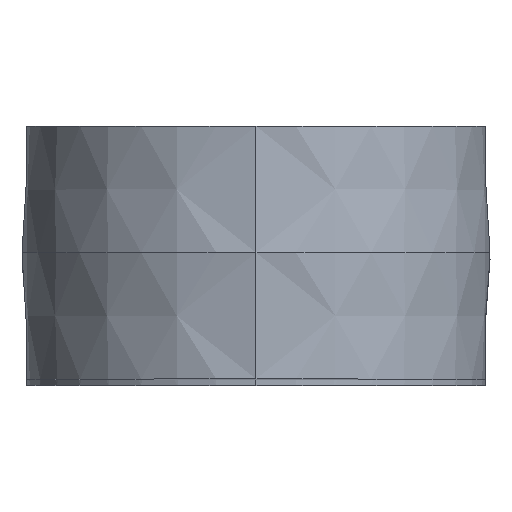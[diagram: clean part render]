
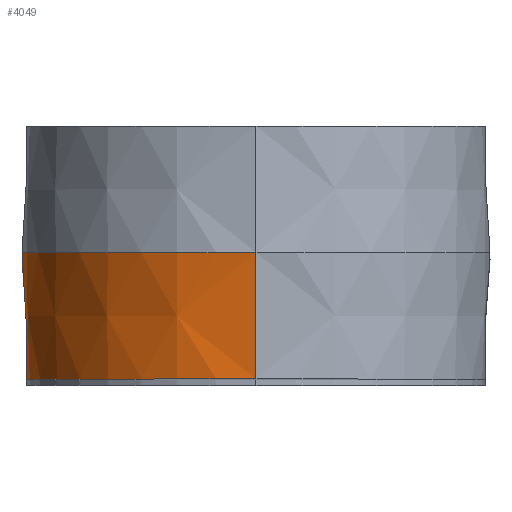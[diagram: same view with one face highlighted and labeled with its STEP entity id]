
A CAD part, top view. The second image highlights one B-rep face of the part: STEP entity #4049.
In plain terms, the highlighted conical face has half-angle 2 degrees and reference radius 100 mm.
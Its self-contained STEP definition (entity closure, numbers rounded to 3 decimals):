
#1867=AXIS2_PLACEMENT_3D('Circle Axis2P3D',#1865,#1866,$) ;
#2379=AXIS2_PLACEMENT_3D('Circle Axis2P3D',#2377,#2378,$) ;
#4015=AXIS2_PLACEMENT_3D('Cone Axis2P3D',#4012,#4013,#4014) ;
#4038=AXIS2_PLACEMENT_3D('Circle Axis2P3D',#4036,#4037,$) ;
#1836=CARTESIAN_POINT('Vertex',(-534.442,235.349,2883.82)) ;
#1862=CARTESIAN_POINT('Vertex',(-436.613,235.349,2798.779)) ;
#1865=CARTESIAN_POINT('Axis2P3D Location',(-436.613,235.349,2897.569)) ;
#2331=CARTESIAN_POINT('Vertex',(-436.613,270.,2997.569)) ;
#2374=CARTESIAN_POINT('Vertex',(-535.64,270.,2883.651)) ;
#2377=CARTESIAN_POINT('Axis2P3D Location',(-436.613,270.,2897.569)) ;
#4012=CARTESIAN_POINT('Axis2P3D Location',(-436.613,270.,2897.569)) ;
#4017=CARTESIAN_POINT('Line Origine',(-436.613,227.5,2996.084)) ;
#4021=CARTESIAN_POINT('Vertex',(-436.613,216.,2995.683)) ;
#4024=CARTESIAN_POINT('Line Origine',(-534.17,227.5,2883.858)) ;
#4029=CARTESIAN_POINT('Line Origine',(-436.613,227.5,2799.053)) ;
#4033=CARTESIAN_POINT('Vertex',(-436.613,216.,2799.454)) ;
#4036=CARTESIAN_POINT('Axis2P3D Location',(-436.613,216.,2897.569)) ;
#1866=DIRECTION('Axis2P3D Direction',(0.,-1.,0.)) ;
#2378=DIRECTION('Axis2P3D Direction',(0.,-1.,0.)) ;
#4013=DIRECTION('Axis2P3D Direction',(0.,1.,0.)) ;
#4014=DIRECTION('Axis2P3D XDirection',(-0.99,0.,-0.139)) ;
#4018=DIRECTION('Vector Direction',(0.,0.999,0.035)) ;
#4025=DIRECTION('Vector Direction',(-0.035,0.999,-0.005)) ;
#4030=DIRECTION('Vector Direction',(0.,0.999,-0.035)) ;
#4037=DIRECTION('Axis2P3D Direction',(0.,-1.,0.)) ;
#4019=VECTOR('Line Direction',#4018,1.) ;
#4026=VECTOR('Line Direction',#4025,1.) ;
#4031=VECTOR('Line Direction',#4030,1.) ;
#4042=ORIENTED_EDGE('',*,*,#4023,.F.) ;
#4043=ORIENTED_EDGE('',*,*,#2381,.F.) ;
#4044=ORIENTED_EDGE('',*,*,#4028,.T.) ;
#4045=ORIENTED_EDGE('',*,*,#1869,.T.) ;
#4046=ORIENTED_EDGE('',*,*,#4035,.T.) ;
#4047=ORIENTED_EDGE('',*,*,#4040,.T.) ;
#4049=ADVANCED_FACE('A2-006.1\\\X2\FF8AFF9FFF70FF82\X0\ \X2\FF8EFF9EFF83FF9EFF68FF70\X0\',(#4048),#4016,.T.) ;
#1868=CIRCLE('generated circle',#1867,98.79) ;
#2380=CIRCLE('generated circle',#2379,100.) ;
#4039=CIRCLE('generated circle',#4038,98.114) ;
#4016=CONICAL_SURFACE('Cone',#4015,100.,0.035) ;
#1869=EDGE_CURVE('',#1837,#1863,#1868,.T.) ;
#2381=EDGE_CURVE('',#2375,#2332,#2380,.F.) ;
#4023=EDGE_CURVE('',#2332,#4022,#4020,.F.) ;
#4028=EDGE_CURVE('',#2375,#1837,#4027,.F.) ;
#4035=EDGE_CURVE('',#1863,#4034,#4032,.F.) ;
#4040=EDGE_CURVE('',#4034,#4022,#4039,.F.) ;
#4041=EDGE_LOOP('',(#4042,#4043,#4044,#4045,#4046,#4047)) ;
#4048=FACE_OUTER_BOUND('',#4041,.T.) ;
#4020=LINE('Line',#4017,#4019) ;
#4027=LINE('Line',#4024,#4026) ;
#4032=LINE('Line',#4029,#4031) ;
#1837=VERTEX_POINT('',#1836) ;
#1863=VERTEX_POINT('',#1862) ;
#2332=VERTEX_POINT('',#2331) ;
#2375=VERTEX_POINT('',#2374) ;
#4022=VERTEX_POINT('',#4021) ;
#4034=VERTEX_POINT('',#4033) ;
